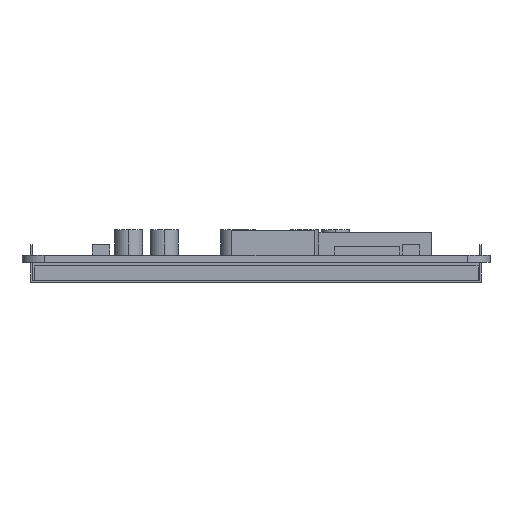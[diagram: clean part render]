
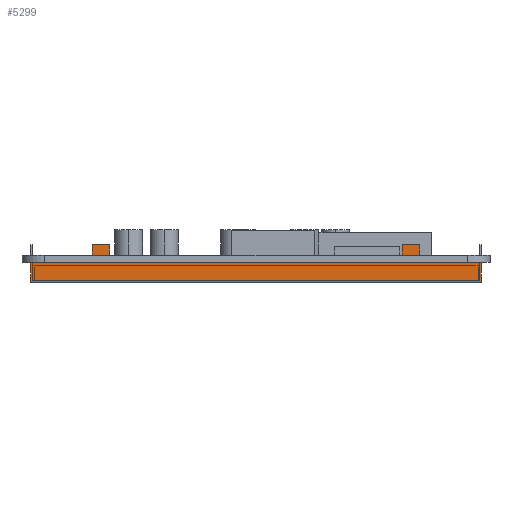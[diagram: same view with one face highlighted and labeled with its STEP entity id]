
A CAD part, front view. The second image highlights one B-rep face of the part: STEP entity #5299.
In plain terms, the highlighted planar face has unit normal (0, -1, 0).
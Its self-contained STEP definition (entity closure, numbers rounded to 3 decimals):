
#543=DIRECTION('',(1.,0.,0.));
#544=VECTOR('',#543,13.288);
#545=CARTESIAN_POINT('',(37.465,-83.102,-1.6));
#546=LINE('',#545,#544);
#559=DIRECTION('',(1.,0.,0.));
#560=VECTOR('',#559,64.77);
#561=CARTESIAN_POINT('',(-32.385,-83.102,-1.6));
#562=LINE('',#561,#560);
#575=DIRECTION('',(1.,0.,0.));
#576=VECTOR('',#575,13.282);
#577=CARTESIAN_POINT('',(-50.747,-83.102,-1.6));
#578=LINE('',#577,#576);
#1019=DIRECTION('',(-1.,0.,0.));
#1020=VECTOR('',#1019,2.534);
#1021=CARTESIAN_POINT('',(37.465,-83.102,-1.6));
#1022=LINE('',#1021,#1020);
#1039=DIRECTION('',(-1.,0.,0.));
#1040=VECTOR('',#1039,0.546);
#1041=CARTESIAN_POINT('',(32.931,-83.102,-1.6));
#1042=LINE('',#1041,#1040);
#1243=DIRECTION('',(-1.,0.,0.));
#1244=VECTOR('',#1243,2.54);
#1245=CARTESIAN_POINT('',(-32.385,-83.102,-1.6));
#1246=LINE('',#1245,#1244);
#1263=DIRECTION('',(1.,0.,0.));
#1264=VECTOR('',#1263,0.54);
#1265=CARTESIAN_POINT('',(-37.465,-83.102,-1.6));
#1266=LINE('',#1265,#1264);
#1527=DIRECTION('',(0.,0.,1.));
#1528=VECTOR('',#1527,4.);
#1529=CARTESIAN_POINT('',(-36.925,-83.102,-1.6));
#1530=LINE('',#1529,#1528);
#1531=DIRECTION('',(-1.,0.,0.));
#1532=VECTOR('',#1531,2.);
#1533=CARTESIAN_POINT('',(-32.925,-83.102,0.));
#1534=LINE('',#1533,#1532);
#1535=DIRECTION('',(0.,0.,-1.));
#1536=VECTOR('',#1535,1.6);
#1537=CARTESIAN_POINT('',(-34.925,-83.102,0.));
#1538=LINE('',#1537,#1536);
#1539=DIRECTION('',(0.,0.,1.));
#1540=VECTOR('',#1539,4.);
#1541=CARTESIAN_POINT('',(32.931,-83.102,-1.6));
#1542=LINE('',#1541,#1540);
#1543=DIRECTION('',(-1.,0.,0.));
#1544=VECTOR('',#1543,2.);
#1545=CARTESIAN_POINT('',(36.931,-83.102,0.));
#1546=LINE('',#1545,#1544);
#1547=DIRECTION('',(0.,0.,-1.));
#1548=VECTOR('',#1547,1.6);
#1549=CARTESIAN_POINT('',(34.931,-83.102,0.));
#1550=LINE('',#1549,#1548);
#1551=DIRECTION('',(0.,0.,1.));
#1552=VECTOR('',#1551,4.5);
#1553=CARTESIAN_POINT('',(-50.747,-83.102,-6.1));
#1554=LINE('',#1553,#1552);
#1599=DIRECTION('',(1.,0.,0.));
#1600=VECTOR('',#1599,4.);
#1601=CARTESIAN_POINT('',(32.931,-83.102,2.4));
#1602=LINE('',#1601,#1600);
#1615=DIRECTION('',(1.,0.,0.));
#1616=VECTOR('',#1615,4.);
#1617=CARTESIAN_POINT('',(-36.925,-83.102,2.4));
#1618=LINE('',#1617,#1616);
#1755=DIRECTION('',(0.,0.,1.));
#1756=VECTOR('',#1755,2.4);
#1757=CARTESIAN_POINT('',(36.931,-83.102,0.));
#1758=LINE('',#1757,#1756);
#1767=DIRECTION('',(0.,0.,1.));
#1768=VECTOR('',#1767,2.4);
#1769=CARTESIAN_POINT('',(-32.925,-83.102,0.));
#1770=LINE('',#1769,#1768);
#1819=DIRECTION('',(0.,0.,1.));
#1820=VECTOR('',#1819,4.5);
#1821=CARTESIAN_POINT('',(50.753,-83.102,-6.1));
#1822=LINE('',#1821,#1820);
#1871=DIRECTION('',(1.,0.,0.));
#1872=VECTOR('',#1871,101.5);
#1873=CARTESIAN_POINT('',(-50.747,-83.102,-6.1));
#1874=LINE('',#1873,#1872);
#2931=CARTESIAN_POINT('',(-50.747,-83.102,-6.1));
#2932=VERTEX_POINT('',#2931);
#2933=CARTESIAN_POINT('',(50.753,-83.102,-6.1));
#2934=VERTEX_POINT('',#2933);
#2971=CARTESIAN_POINT('',(32.931,-83.102,2.4));
#2972=VERTEX_POINT('',#2971);
#2973=CARTESIAN_POINT('',(36.931,-83.102,2.4));
#2974=VERTEX_POINT('',#2973);
#2979=CARTESIAN_POINT('',(-36.925,-83.102,2.4));
#2980=VERTEX_POINT('',#2979);
#2981=CARTESIAN_POINT('',(-32.925,-83.102,2.4));
#2982=VERTEX_POINT('',#2981);
#3039=CARTESIAN_POINT('',(32.931,-83.102,-1.6));
#3041=VERTEX_POINT('',#3039);
#3043=CARTESIAN_POINT('',(-36.925,-83.102,-1.6));
#3045=VERTEX_POINT('',#3043);
#3095=CARTESIAN_POINT('',(-32.925,-83.102,0.));
#3096=CARTESIAN_POINT('',(-34.925,-83.102,0.));
#3097=VERTEX_POINT('',#3095);
#3098=VERTEX_POINT('',#3096);
#3099=CARTESIAN_POINT('',(-34.925,-83.102,-1.6));
#3100=VERTEX_POINT('',#3099);
#3101=CARTESIAN_POINT('',(36.931,-83.102,0.));
#3102=CARTESIAN_POINT('',(34.931,-83.102,0.));
#3103=VERTEX_POINT('',#3101);
#3104=VERTEX_POINT('',#3102);
#3105=CARTESIAN_POINT('',(34.931,-83.102,-1.6));
#3106=VERTEX_POINT('',#3105);
#3222=CARTESIAN_POINT('',(-50.747,-83.102,-1.6));
#3224=VERTEX_POINT('',#3222);
#3225=CARTESIAN_POINT('',(-37.465,-83.102,-1.6));
#3226=VERTEX_POINT('',#3225);
#3227=CARTESIAN_POINT('',(-32.385,-83.102,-1.6));
#3228=CARTESIAN_POINT('',(32.385,-83.102,-1.6));
#3229=VERTEX_POINT('',#3227);
#3230=VERTEX_POINT('',#3228);
#3231=CARTESIAN_POINT('',(37.465,-83.102,-1.6));
#3232=CARTESIAN_POINT('',(50.753,-83.102,-1.6));
#3233=VERTEX_POINT('',#3231);
#3234=VERTEX_POINT('',#3232);
#5260=CARTESIAN_POINT('',(-50.747,-83.102,-6.1));
#5261=DIRECTION('',(0.,-1.,0.));
#5262=DIRECTION('',(1.,0.,0.));
#5263=AXIS2_PLACEMENT_3D('',#5260,#5261,#5262);
#5264=PLANE('',#5263);
#5265=ORIENTED_EDGE('',*,*,#3689,.T.);
#5266=ORIENTED_EDGE('',*,*,#4668,.T.);
#5268=ORIENTED_EDGE('',*,*,#5267,.T.);
#5270=ORIENTED_EDGE('',*,*,#5269,.T.);
#5272=ORIENTED_EDGE('',*,*,#5271,.F.);
#5274=ORIENTED_EDGE('',*,*,#5273,.T.);
#5276=ORIENTED_EDGE('',*,*,#5275,.T.);
#5277=ORIENTED_EDGE('',*,*,#4641,.F.);
#5278=ORIENTED_EDGE('',*,*,#3681,.T.);
#5279=ORIENTED_EDGE('',*,*,#4235,.F.);
#5281=ORIENTED_EDGE('',*,*,#5280,.T.);
#5283=ORIENTED_EDGE('',*,*,#5282,.T.);
#5285=ORIENTED_EDGE('',*,*,#5284,.F.);
#5287=ORIENTED_EDGE('',*,*,#5286,.T.);
#5288=ORIENTED_EDGE('',*,*,#5244,.T.);
#5289=ORIENTED_EDGE('',*,*,#4208,.F.);
#5290=ORIENTED_EDGE('',*,*,#3673,.T.);
#5292=ORIENTED_EDGE('',*,*,#5291,.F.);
#5294=ORIENTED_EDGE('',*,*,#5293,.F.);
#5296=ORIENTED_EDGE('',*,*,#5295,.T.);
#5297=EDGE_LOOP('',(#5265,#5266,#5268,#5270,#5272,#5274,#5276,#5277,#5278,#5279,
#5281,#5283,#5285,#5287,#5288,#5289,#5290,#5292,#5294,#5296));
#5298=FACE_OUTER_BOUND('',#5297,.F.);
#3673=EDGE_CURVE('',#3233,#3234,#546,.T.);
#3681=EDGE_CURVE('',#3229,#3230,#562,.T.);
#3689=EDGE_CURVE('',#3224,#3226,#578,.T.);
#4208=EDGE_CURVE('',#3233,#3106,#1022,.T.);
#4235=EDGE_CURVE('',#3041,#3230,#1042,.T.);
#4641=EDGE_CURVE('',#3229,#3100,#1246,.T.);
#4668=EDGE_CURVE('',#3226,#3045,#1266,.T.);
#5244=EDGE_CURVE('',#3104,#3106,#1550,.T.);
#5267=EDGE_CURVE('',#3045,#2980,#1530,.T.);
#5269=EDGE_CURVE('',#2980,#2982,#1618,.T.);
#5271=EDGE_CURVE('',#3097,#2982,#1770,.T.);
#5273=EDGE_CURVE('',#3097,#3098,#1534,.T.);
#5275=EDGE_CURVE('',#3098,#3100,#1538,.T.);
#5280=EDGE_CURVE('',#3041,#2972,#1542,.T.);
#5282=EDGE_CURVE('',#2972,#2974,#1602,.T.);
#5284=EDGE_CURVE('',#3103,#2974,#1758,.T.);
#5286=EDGE_CURVE('',#3103,#3104,#1546,.T.);
#5291=EDGE_CURVE('',#2934,#3234,#1822,.T.);
#5293=EDGE_CURVE('',#2932,#2934,#1874,.T.);
#5295=EDGE_CURVE('',#2932,#3224,#1554,.T.);
#5299=ADVANCED_FACE('',(#5298),#5264,.T.);
